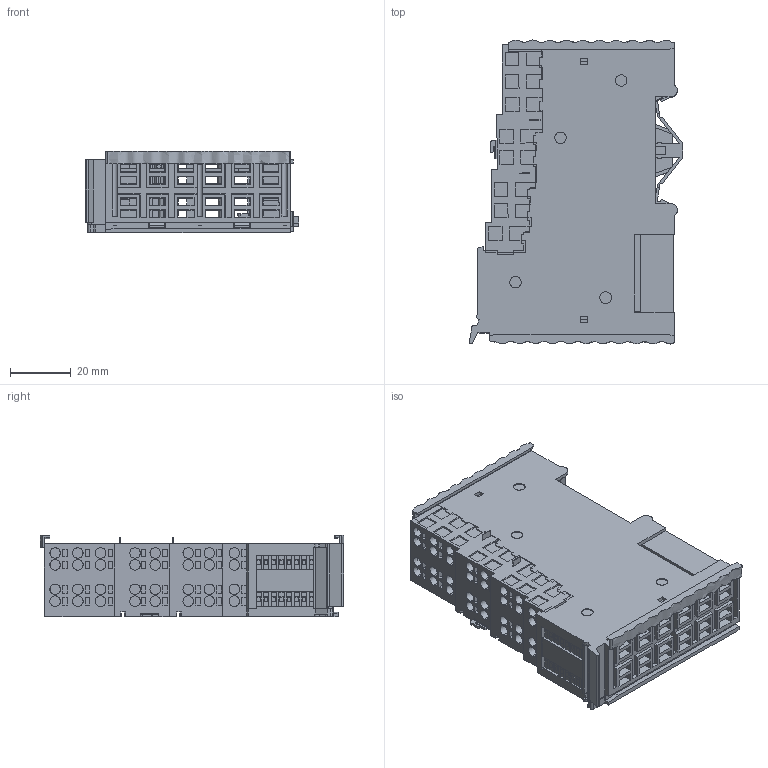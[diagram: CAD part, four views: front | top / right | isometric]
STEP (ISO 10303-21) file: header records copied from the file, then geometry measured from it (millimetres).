
FILE_DESCRIPTION((''),'2;1');
FILE_NAME('ASM0002-XIN_ASM_1__ASM','2022-05-25T',('Administrator'),(''),'PRO/ENGINEER BY PARAMETRIC TECHNOLOGY CORPORATION, 2015280','PRO/ENGINEER BY PARAMETRIC TECHNOLOGY CORPORATION, 2015280','');
FILE_SCHEMA(('CONFIG_CONTROL_DESIGN'));
Products named in the file (11): 4_215; 2_27; 3_5; 5_61; 1_11; 6_8; 7_8; ASM0002-XIN_ASM_31_ASM; PRT0001; PRT0003; ASM0002-XIN_ASM_1__ASM
Assembly tree (12 placements, depth 3):
  ASM0002-XIN_ASM_1__ASM
    ASM0002-XIN_ASM_31_ASM
      4_215
      2_27
      3_5  x2
      5_61
      1_11
      6_8
      7_8
    PRT0001
    PRT0003  x2
Bounding box: 70.47 x 100.2 x 26.77 mm (x, y, z)
Volume: 56458.3 mm3; surface area: 65463.1 mm2
Topology: 11 solids, 11 shells, 2255 faces, 6407 edges, 4283 vertices
Faces by surface type: plane 1812, cylinder 333, cone 60, bspline 28, torus 20, extrusion 2
Entity records: 69935 total; most frequent: CARTESIAN_POINT 13861, ORIENTED_EDGE 11992, DIRECTION 11058, EDGE_CURVE 5996, VECTOR 4890, LINE 4888, VERTEX_POINT 4009, AXIS2_PLACEMENT_3D 3084
